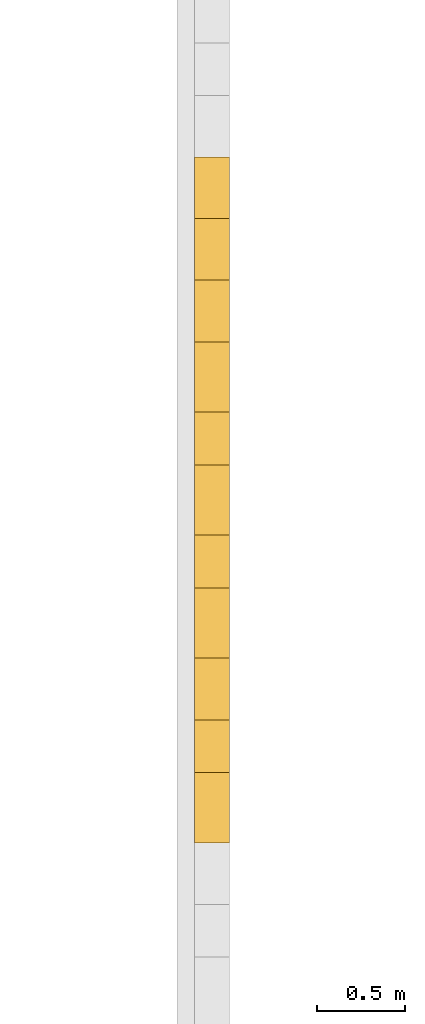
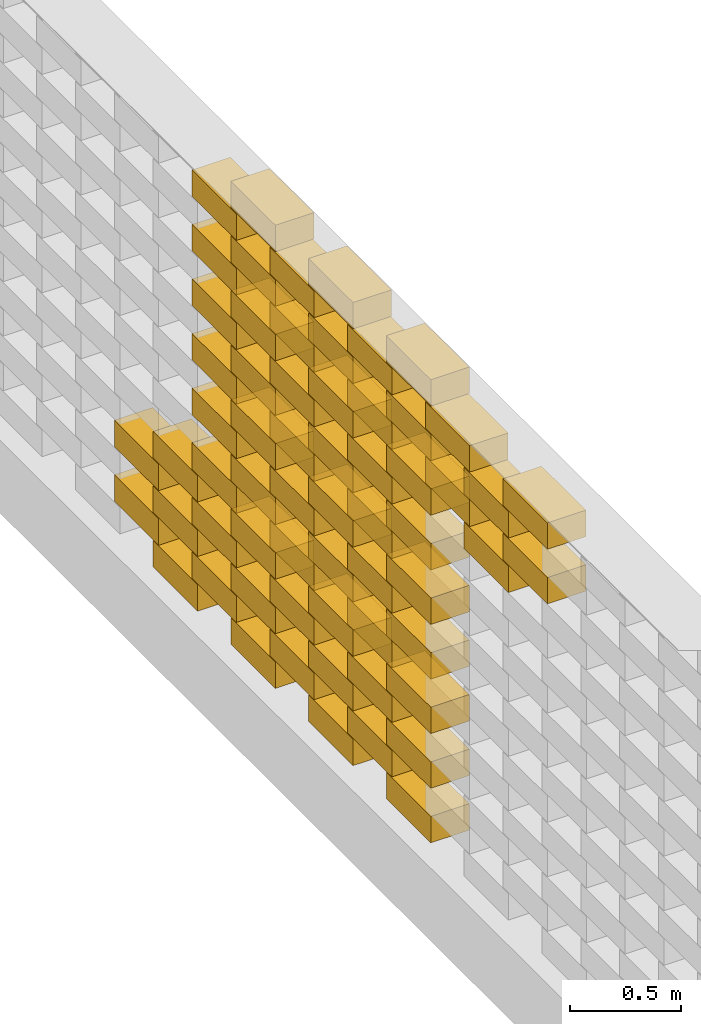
# One storey, part 40 of 62: 71 railings.
"""IFC2X3 building model written with IfcOpenShell, lengths in millimetres."""

from ifc_helpers import new_model, entity, si_unit, converted_unit, derived_unit, money_unit, direction, frame, origin_with_axes, place, context, subcontext, project, spatial, polyline, outline, extrude, material, type_object, element, save


model = new_model("IFC2X3")

# Units and contexts
model_context = context("Model", 3, precision=0.01, world=origin_with_axes(), true_north=direction((0.0, 1.0)))
body_context = subcontext(model_context, "Body", "Model", "MODEL_VIEW")
ifc_project = project(units=[si_unit("LENGTHUNIT", "METRE", prefix="MILLI"), si_unit("AREAUNIT", "SQUARE_METRE"), si_unit("VOLUMEUNIT", "CUBIC_METRE"), converted_unit("PLANEANGLEUNIT", "DEGREE", entity("IfcPlaneAngleMeasure", 0.0174532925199), si_unit("PLANEANGLEUNIT", "RADIAN"), dimensions=[0, 0, 0, 0, 0, 0, 0]), si_unit("SOLIDANGLEUNIT", "STERADIAN"), money_unit("EUR"), converted_unit("TIMEUNIT", "Year", entity("IfcTimeMeasure", 31556926.0), si_unit("TIMEUNIT", "SECOND"), dimensions=[0, 0, 1, 0, 0, 0, 0]), si_unit("MASSUNIT", "GRAM", prefix="KILO"), si_unit("THERMODYNAMICTEMPERATUREUNIT", "DEGREE_CELSIUS"), si_unit("LUMINOUSINTENSITYUNIT", "LUMEN"), si_unit("ENERGYUNIT", "JOULE", prefix="MEGA"), derived_unit("THERMALCONDUCTANCEUNIT", [(si_unit("POWERUNIT", "WATT"), 1), (si_unit("LENGTHUNIT", "METRE"), -1), (si_unit("THERMODYNAMICTEMPERATUREUNIT", "KELVIN"), -1)]), derived_unit("SPECIFICHEATCAPACITYUNIT", [(si_unit("ENERGYUNIT", "JOULE"), 1), (si_unit("MASSUNIT", "GRAM", prefix="KILO"), -1), (si_unit("THERMODYNAMICTEMPERATUREUNIT", "KELVIN"), -1)]), derived_unit("MASSDENSITYUNIT", [(si_unit("MASSUNIT", "GRAM", prefix="KILO"), 1), (si_unit("VOLUMEUNIT", "CUBIC_METRE"), -1)])], contexts=[model_context])

# Site, building, storey
site_placement = place(None, origin_with_axes())
site = spatial("IfcSite", under=ifc_project, at=site_placement, Name="KIRDE 14, ELVA", CompositionType="ELEMENT")
building_placement = place(site_placement, origin_with_axes())
building = spatial("IfcBuilding", under=site, at=building_placement, Name="PPA ja Päästeameti ühishoone", CompositionType="ELEMENT")
storey_placement = place(building_placement, origin_with_axes())
storey = spatial("IfcBuildingStorey", under=building, at=storey_placement, Name="Esimene korrus", CompositionType="ELEMENT", Elevation=0.0)

# Railings
ifc_material = material(Name="Air Space")
railing_type = type_object("IfcRailingType", Name="Air Space 200", PredefinedType="NOTDEFINED")
railing_1_placement = place(storey_placement, frame((620.000152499, -17423.8398409, 2800.0), z_axis=(0.0, 0.0, 1.0), x_axis=(7.27595762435e-10, -1.0, 0.0)))
element("IfcRailing", 1, at=railing_1_placement, inside=storey, type_object=railing_type, material=ifc_material, Name="plokk", PredefinedType="NOTDEFINED", context=body_context, shape_type="SweptSolid", body=[
    extrude(outline(polyline([(0.0, 0.0), (399.999999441, 0.0), (399.999999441, 200.0), (0.0, 200.0), (0.0, 0.0)])), origin_with_axes(), (0.0, 0.0, 1.0), 145.0),
])
for number, where, z_axis, x_axis in (
    (2, (620.000153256, -18123.8398401, 2800.0), (0.0, 0.0, 1.0), (-1.01863406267e-09, -1.0, 0.0)),
    (3, (620.000152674, -16723.8398388, 2800.0), (0.0, 0.0, 1.0), (5.82076607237e-10, -1.0, 0.0)),
):
    element("IfcRailing", number, at=place(storey_placement, frame(where, z_axis=z_axis, x_axis=x_axis)), inside=storey, type_object=railing_type, material=ifc_material, Name="plokk", PredefinedType="NOTDEFINED", context=body_context, shape_type="SweptSolid", body=[
        extrude(outline(polyline([(0.0, 0.0), (400.000001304, 0.0), (400.000001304, 200.0), (0.0, 200.0), (0.0, 0.0)])), origin_with_axes(), (0.0, 0.0, 1.0), 145.0),
    ])
railing_2_placement = place(storey_placement, frame((620.000152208, -16023.8398405, 400.0), z_axis=(0.0, 0.0, 1.0), x_axis=(0.0, -1.0, 0.0)))
element("IfcRailing", 4, at=railing_2_placement, inside=storey, type_object=railing_type, material=ifc_material, Name="plokk", PredefinedType="NOTDEFINED", context=body_context, shape_type="SweptSolid", body=[
    extrude(outline(polyline([(0.0, 0.0), (399.999999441, 0.0), (399.999999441, 200.0), (0.0, 200.0), (0.0, 0.0)])), origin_with_axes(), (0.0, 0.0, 1.0), 145.0),
])
railing_3_placement = place(storey_placement, frame((620.000152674, -16723.8398388, 400.0), z_axis=(0.0, 0.0, 1.0), x_axis=(5.82076607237e-10, -1.0, 0.0)))
element("IfcRailing", 5, at=railing_3_placement, inside=storey, type_object=railing_type, material=ifc_material, Name="plokk", PredefinedType="NOTDEFINED", context=body_context, shape_type="SweptSolid", body=[
    extrude(outline(polyline([(0.0, 0.0), (400.000001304, 0.0), (400.000001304, 200.0), (0.0, 200.0), (0.0, 0.0)])), origin_with_axes(), (0.0, 0.0, 1.0), 145.0),
])
railing_4_placement = place(storey_placement, frame((620.000152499, -17423.8398409, 400.0), z_axis=(0.0, 0.0, 1.0), x_axis=(7.27595762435e-10, -1.0, 0.0)))
element("IfcRailing", 6, at=railing_4_placement, inside=storey, type_object=railing_type, material=ifc_material, Name="plokk", PredefinedType="NOTDEFINED", context=body_context, shape_type="SweptSolid", body=[
    extrude(outline(polyline([(0.0, 0.0), (399.999999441, 0.0), (399.999999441, 200.0), (0.0, 200.0), (0.0, 0.0)])), origin_with_axes(), (0.0, 0.0, 1.0), 145.0),
])
railing_5_placement = place(storey_placement, frame((620.000153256, -18123.8398401, 400.0), z_axis=(0.0, 0.0, 1.0), x_axis=(-1.01863406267e-09, -1.0, 0.0)))
element("IfcRailing", 7, at=railing_5_placement, inside=storey, type_object=railing_type, material=ifc_material, Name="plokk", PredefinedType="NOTDEFINED", context=body_context, shape_type="SweptSolid", body=[
    extrude(outline(polyline([(0.0, 0.0), (400.000001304, 0.0), (400.000001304, 200.0), (0.0, 200.0), (0.0, 0.0)])), origin_with_axes(), (0.0, 0.0, 1.0), 145.0),
])
railing_6_placement = place(storey_placement, frame((620.000152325, -15673.8398409, 550.0), z_axis=(0.0, 0.0, 1.0), x_axis=(-8.73114914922e-10, -1.0, 0.0)))
element("IfcRailing", 8, at=railing_6_placement, inside=storey, type_object=railing_type, material=ifc_material, Name="plokk", PredefinedType="NOTDEFINED", context=body_context, shape_type="SweptSolid", body=[
    extrude(outline(polyline([(0.0, 0.0), (399.999999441, 0.0), (399.999999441, 200.0), (0.0, 200.0), (0.0, 0.0)])), origin_with_axes(), (0.0, 0.0, 1.0), 145.0),
])
railing_7_placement = place(storey_placement, frame((620.000152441, -16373.8398401, 550.0), z_axis=(0.0, 0.0, 1.0), x_axis=(1.30967236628e-09, -1.0, 0.0)))
element("IfcRailing", 9, at=railing_7_placement, inside=storey, type_object=railing_type, material=ifc_material, Name="plokk", PredefinedType="NOTDEFINED", context=body_context, shape_type="SweptSolid", body=[
    extrude(outline(polyline([(0.0, 0.0), (400.000001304, 0.0), (400.000001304, 200.0), (0.0, 200.0), (0.0, 0.0)])), origin_with_axes(), (0.0, 0.0, 1.0), 145.0),
])
railing_8_placement = place(storey_placement, frame((620.000152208, -17073.8398403, 550.0), z_axis=(0.0, 0.0, 1.0), x_axis=(8.73114914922e-10, -1.0, 0.0)))
element("IfcRailing", 10, at=railing_8_placement, inside=storey, type_object=railing_type, material=ifc_material, Name="plokk", PredefinedType="NOTDEFINED", context=body_context, shape_type="SweptSolid", body=[
    extrude(outline(polyline([(0.0, 0.0), (399.999999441, 0.0), (399.999999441, 200.0), (0.0, 200.0), (0.0, 0.0)])), origin_with_axes(), (0.0, 0.0, 1.0), 145.0),
])
railing_9_placement = place(storey_placement, frame((620.000153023, -17773.8398405, 550.0), z_axis=(0.0, 0.0, 1.0), x_axis=(0.0, -1.0, 0.0)))
element("IfcRailing", 11, at=railing_9_placement, inside=storey, type_object=railing_type, material=ifc_material, Name="plokk", PredefinedType="NOTDEFINED", context=body_context, shape_type="SweptSolid", body=[
    extrude(outline(polyline([(0.0, 0.0), (400.000000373, 0.0), (400.000000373, 200.0), (0.0, 200.0), (0.0, 0.0)])), origin_with_axes(), (0.0, 0.0, 1.0), 145.0),
])
railing_10_placement = place(storey_placement, frame((620.000152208, -16023.8398405, 700.0), z_axis=(0.0, 0.0, 1.0), x_axis=(0.0, -1.0, 0.0)))
element("IfcRailing", 12, at=railing_10_placement, inside=storey, type_object=railing_type, material=ifc_material, Name="plokk", PredefinedType="NOTDEFINED", context=body_context, shape_type="SweptSolid", body=[
    extrude(outline(polyline([(0.0, 0.0), (399.999999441, 0.0), (399.999999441, 200.0), (0.0, 200.0), (0.0, 0.0)])), origin_with_axes(), (0.0, 0.0, 1.0), 145.0),
])
railing_11_placement = place(storey_placement, frame((620.000152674, -16723.8398388, 700.0), z_axis=(0.0, 0.0, 1.0), x_axis=(5.82076607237e-10, -1.0, 0.0)))
element("IfcRailing", 13, at=railing_11_placement, inside=storey, type_object=railing_type, material=ifc_material, Name="plokk", PredefinedType="NOTDEFINED", context=body_context, shape_type="SweptSolid", body=[
    extrude(outline(polyline([(0.0, 0.0), (400.000001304, 0.0), (400.000001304, 200.0), (0.0, 200.0), (0.0, 0.0)])), origin_with_axes(), (0.0, 0.0, 1.0), 145.0),
])
railing_12_placement = place(storey_placement, frame((620.000152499, -17423.8398409, 700.0), z_axis=(0.0, 0.0, 1.0), x_axis=(7.27595762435e-10, -1.0, 0.0)))
element("IfcRailing", 14, at=railing_12_placement, inside=storey, type_object=railing_type, material=ifc_material, Name="plokk", PredefinedType="NOTDEFINED", context=body_context, shape_type="SweptSolid", body=[
    extrude(outline(polyline([(0.0, 0.0), (399.999999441, 0.0), (399.999999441, 200.0), (0.0, 200.0), (0.0, 0.0)])), origin_with_axes(), (0.0, 0.0, 1.0), 145.0),
])
railing_13_placement = place(storey_placement, frame((620.000153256, -18123.8398401, 700.0), z_axis=(0.0, 0.0, 1.0), x_axis=(-1.01863406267e-09, -1.0, 0.0)))
element("IfcRailing", 15, at=railing_13_placement, inside=storey, type_object=railing_type, material=ifc_material, Name="plokk", PredefinedType="NOTDEFINED", context=body_context, shape_type="SweptSolid", body=[
    extrude(outline(polyline([(0.0, 0.0), (400.000001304, 0.0), (400.000001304, 200.0), (0.0, 200.0), (0.0, 0.0)])), origin_with_axes(), (0.0, 0.0, 1.0), 145.0),
])
railing_14_placement = place(storey_placement, frame((620.000152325, -15673.8398409, 850.0), z_axis=(0.0, 0.0, 1.0), x_axis=(-8.73114914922e-10, -1.0, 0.0)))
element("IfcRailing", 16, at=railing_14_placement, inside=storey, type_object=railing_type, material=ifc_material, Name="plokk", PredefinedType="NOTDEFINED", context=body_context, shape_type="SweptSolid", body=[
    extrude(outline(polyline([(0.0, 0.0), (399.999999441, 0.0), (399.999999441, 200.0), (0.0, 200.0), (0.0, 0.0)])), origin_with_axes(), (0.0, 0.0, 1.0), 145.0),
])
railing_15_placement = place(storey_placement, frame((620.000152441, -16373.8398401, 850.0), z_axis=(0.0, 0.0, 1.0), x_axis=(1.30967236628e-09, -1.0, 0.0)))
element("IfcRailing", 17, at=railing_15_placement, inside=storey, type_object=railing_type, material=ifc_material, Name="plokk", PredefinedType="NOTDEFINED", context=body_context, shape_type="SweptSolid", body=[
    extrude(outline(polyline([(0.0, 0.0), (400.000001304, 0.0), (400.000001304, 200.0), (0.0, 200.0), (0.0, 0.0)])), origin_with_axes(), (0.0, 0.0, 1.0), 145.0),
])
railing_16_placement = place(storey_placement, frame((620.000152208, -17073.8398403, 850.0), z_axis=(0.0, 0.0, 1.0), x_axis=(8.73114914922e-10, -1.0, 0.0)))
element("IfcRailing", 18, at=railing_16_placement, inside=storey, type_object=railing_type, material=ifc_material, Name="plokk", PredefinedType="NOTDEFINED", context=body_context, shape_type="SweptSolid", body=[
    extrude(outline(polyline([(0.0, 0.0), (399.999999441, 0.0), (399.999999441, 200.0), (0.0, 200.0), (0.0, 0.0)])), origin_with_axes(), (0.0, 0.0, 1.0), 145.0),
])
railing_17_placement = place(storey_placement, frame((620.000153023, -17773.8398405, 850.0), z_axis=(0.0, 0.0, 1.0), x_axis=(0.0, -1.0, 0.0)))
element("IfcRailing", 19, at=railing_17_placement, inside=storey, type_object=railing_type, material=ifc_material, Name="plokk", PredefinedType="NOTDEFINED", context=body_context, shape_type="SweptSolid", body=[
    extrude(outline(polyline([(0.0, 0.0), (400.000000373, 0.0), (400.000000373, 200.0), (0.0, 200.0), (0.0, 0.0)])), origin_with_axes(), (0.0, 0.0, 1.0), 145.0),
])
railing_18_placement = place(storey_placement, frame((620.000152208, -16023.8398405, 1000.0), z_axis=(0.0, 0.0, 1.0), x_axis=(0.0, -1.0, 0.0)))
element("IfcRailing", 20, at=railing_18_placement, inside=storey, type_object=railing_type, material=ifc_material, Name="plokk", PredefinedType="NOTDEFINED", context=body_context, shape_type="SweptSolid", body=[
    extrude(outline(polyline([(0.0, 0.0), (399.999999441, 0.0), (399.999999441, 200.0), (0.0, 200.0), (0.0, 0.0)])), origin_with_axes(), (0.0, 0.0, 1.0), 145.0),
])
railing_19_placement = place(storey_placement, frame((620.000152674, -16723.8398388, 1000.0), z_axis=(0.0, 0.0, 1.0), x_axis=(5.82076607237e-10, -1.0, 0.0)))
element("IfcRailing", 21, at=railing_19_placement, inside=storey, type_object=railing_type, material=ifc_material, Name="plokk", PredefinedType="NOTDEFINED", context=body_context, shape_type="SweptSolid", body=[
    extrude(outline(polyline([(0.0, 0.0), (400.000001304, 0.0), (400.000001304, 200.0), (0.0, 200.0), (0.0, 0.0)])), origin_with_axes(), (0.0, 0.0, 1.0), 145.0),
])
railing_20_placement = place(storey_placement, frame((620.000152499, -17423.8398409, 1000.0), z_axis=(0.0, 0.0, 1.0), x_axis=(7.27595762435e-10, -1.0, 0.0)))
element("IfcRailing", 22, at=railing_20_placement, inside=storey, type_object=railing_type, material=ifc_material, Name="plokk", PredefinedType="NOTDEFINED", context=body_context, shape_type="SweptSolid", body=[
    extrude(outline(polyline([(0.0, 0.0), (399.999999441, 0.0), (399.999999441, 200.0), (0.0, 200.0), (0.0, 0.0)])), origin_with_axes(), (0.0, 0.0, 1.0), 145.0),
])
for number, where, z_axis, x_axis in (
    (23, (620.000153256, -18123.8398401, 1000.0), (0.0, 0.0, 1.0), (-1.01863406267e-09, -1.0, 0.0)),
    (24, (620.000152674, -16723.8398388, 1000.0), (0.0, 0.0, 1.0), (5.82076607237e-10, -1.0, 0.0)),
):
    element("IfcRailing", number, at=place(storey_placement, frame(where, z_axis=z_axis, x_axis=x_axis)), inside=storey, type_object=railing_type, material=ifc_material, Name="plokk", PredefinedType="NOTDEFINED", context=body_context, shape_type="SweptSolid", body=[
        extrude(outline(polyline([(0.0, 0.0), (400.000001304, 0.0), (400.000001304, 200.0), (0.0, 200.0), (0.0, 0.0)])), origin_with_axes(), (0.0, 0.0, 1.0), 145.0),
    ])
railing_21_placement = place(storey_placement, frame((620.000152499, -17423.8398409, 1000.0), z_axis=(0.0, 0.0, 1.0), x_axis=(7.27595762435e-10, -1.0, 0.0)))
element("IfcRailing", 25, at=railing_21_placement, inside=storey, type_object=railing_type, material=ifc_material, Name="plokk", PredefinedType="NOTDEFINED", context=body_context, shape_type="SweptSolid", body=[
    extrude(outline(polyline([(0.0, 0.0), (399.999999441, 0.0), (399.999999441, 200.0), (0.0, 200.0), (0.0, 0.0)])), origin_with_axes(), (0.0, 0.0, 1.0), 145.0),
])
for number, where, z_axis, x_axis in (
    (26, (620.000153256, -18123.8398401, 1000.0), (0.0, 0.0, 1.0), (-1.01863406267e-09, -1.0, 0.0)),
    (27, (620.000152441, -16373.8398401, 1150.0), (0.0, 0.0, 1.0), (1.30967236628e-09, -1.0, 0.0)),
):
    element("IfcRailing", number, at=place(storey_placement, frame(where, z_axis=z_axis, x_axis=x_axis)), inside=storey, type_object=railing_type, material=ifc_material, Name="plokk", PredefinedType="NOTDEFINED", context=body_context, shape_type="SweptSolid", body=[
        extrude(outline(polyline([(0.0, 0.0), (400.000001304, 0.0), (400.000001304, 200.0), (0.0, 200.0), (0.0, 0.0)])), origin_with_axes(), (0.0, 0.0, 1.0), 145.0),
    ])
railing_22_placement = place(storey_placement, frame((620.000152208, -17073.8398403, 1150.0), z_axis=(0.0, 0.0, 1.0), x_axis=(8.73114914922e-10, -1.0, 0.0)))
element("IfcRailing", 28, at=railing_22_placement, inside=storey, type_object=railing_type, material=ifc_material, Name="plokk", PredefinedType="NOTDEFINED", context=body_context, shape_type="SweptSolid", body=[
    extrude(outline(polyline([(0.0, 0.0), (399.999999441, 0.0), (399.999999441, 200.0), (0.0, 200.0), (0.0, 0.0)])), origin_with_axes(), (0.0, 0.0, 1.0), 145.0),
])
railing_23_placement = place(storey_placement, frame((620.000153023, -17773.8398405, 1150.0), z_axis=(0.0, 0.0, 1.0), x_axis=(0.0, -1.0, 0.0)))
element("IfcRailing", 29, at=railing_23_placement, inside=storey, type_object=railing_type, material=ifc_material, Name="plokk", PredefinedType="NOTDEFINED", context=body_context, shape_type="SweptSolid", body=[
    extrude(outline(polyline([(0.0, 0.0), (400.000000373, 0.0), (400.000000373, 200.0), (0.0, 200.0), (0.0, 0.0)])), origin_with_axes(), (0.0, 0.0, 1.0), 145.0),
])
railing_24_placement = place(storey_placement, frame((620.000152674, -16723.8398388, 1300.0), z_axis=(0.0, 0.0, 1.0), x_axis=(5.82076607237e-10, -1.0, 0.0)))
element("IfcRailing", 30, at=railing_24_placement, inside=storey, type_object=railing_type, material=ifc_material, Name="plokk", PredefinedType="NOTDEFINED", context=body_context, shape_type="SweptSolid", body=[
    extrude(outline(polyline([(0.0, 0.0), (400.000001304, 0.0), (400.000001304, 200.0), (0.0, 200.0), (0.0, 0.0)])), origin_with_axes(), (0.0, 0.0, 1.0), 145.0),
])
railing_25_placement = place(storey_placement, frame((620.000152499, -17423.8398409, 1300.0), z_axis=(0.0, 0.0, 1.0), x_axis=(7.27595762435e-10, -1.0, 0.0)))
element("IfcRailing", 31, at=railing_25_placement, inside=storey, type_object=railing_type, material=ifc_material, Name="plokk", PredefinedType="NOTDEFINED", context=body_context, shape_type="SweptSolid", body=[
    extrude(outline(polyline([(0.0, 0.0), (399.999999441, 0.0), (399.999999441, 200.0), (0.0, 200.0), (0.0, 0.0)])), origin_with_axes(), (0.0, 0.0, 1.0), 145.0),
])
for number, where, z_axis, x_axis in (
    (32, (620.000153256, -18123.8398401, 1300.0), (0.0, 0.0, 1.0), (-1.01863406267e-09, -1.0, 0.0)),
    (33, (620.000152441, -16373.8398401, 1450.0), (0.0, 0.0, 1.0), (1.30967236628e-09, -1.0, 0.0)),
):
    element("IfcRailing", number, at=place(storey_placement, frame(where, z_axis=z_axis, x_axis=x_axis)), inside=storey, type_object=railing_type, material=ifc_material, Name="plokk", PredefinedType="NOTDEFINED", context=body_context, shape_type="SweptSolid", body=[
        extrude(outline(polyline([(0.0, 0.0), (400.000001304, 0.0), (400.000001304, 200.0), (0.0, 200.0), (0.0, 0.0)])), origin_with_axes(), (0.0, 0.0, 1.0), 145.0),
    ])
railing_26_placement = place(storey_placement, frame((620.000152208, -17073.8398403, 1450.0), z_axis=(0.0, 0.0, 1.0), x_axis=(8.73114914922e-10, -1.0, 0.0)))
element("IfcRailing", 34, at=railing_26_placement, inside=storey, type_object=railing_type, material=ifc_material, Name="plokk", PredefinedType="NOTDEFINED", context=body_context, shape_type="SweptSolid", body=[
    extrude(outline(polyline([(0.0, 0.0), (399.999999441, 0.0), (399.999999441, 200.0), (0.0, 200.0), (0.0, 0.0)])), origin_with_axes(), (0.0, 0.0, 1.0), 145.0),
])
railing_27_placement = place(storey_placement, frame((620.000153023, -17773.8398405, 1450.0), z_axis=(0.0, 0.0, 1.0), x_axis=(0.0, -1.0, 0.0)))
element("IfcRailing", 35, at=railing_27_placement, inside=storey, type_object=railing_type, material=ifc_material, Name="plokk", PredefinedType="NOTDEFINED", context=body_context, shape_type="SweptSolid", body=[
    extrude(outline(polyline([(0.0, 0.0), (400.000000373, 0.0), (400.000000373, 200.0), (0.0, 200.0), (0.0, 0.0)])), origin_with_axes(), (0.0, 0.0, 1.0), 145.0),
])
railing_28_placement = place(storey_placement, frame((620.000152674, -16723.8398388, 1600.0), z_axis=(0.0, 0.0, 1.0), x_axis=(5.82076607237e-10, -1.0, 0.0)))
element("IfcRailing", 36, at=railing_28_placement, inside=storey, type_object=railing_type, material=ifc_material, Name="plokk", PredefinedType="NOTDEFINED", context=body_context, shape_type="SweptSolid", body=[
    extrude(outline(polyline([(0.0, 0.0), (400.000001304, 0.0), (400.000001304, 200.0), (0.0, 200.0), (0.0, 0.0)])), origin_with_axes(), (0.0, 0.0, 1.0), 145.0),
])
railing_29_placement = place(storey_placement, frame((620.000152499, -17423.8398409, 1600.0), z_axis=(0.0, 0.0, 1.0), x_axis=(7.27595762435e-10, -1.0, 0.0)))
element("IfcRailing", 37, at=railing_29_placement, inside=storey, type_object=railing_type, material=ifc_material, Name="plokk", PredefinedType="NOTDEFINED", context=body_context, shape_type="SweptSolid", body=[
    extrude(outline(polyline([(0.0, 0.0), (399.999999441, 0.0), (399.999999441, 200.0), (0.0, 200.0), (0.0, 0.0)])), origin_with_axes(), (0.0, 0.0, 1.0), 145.0),
])
for number, where, z_axis, x_axis in (
    (38, (620.000153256, -18123.8398401, 1600.0), (0.0, 0.0, 1.0), (-1.01863406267e-09, -1.0, 0.0)),
    (39, (620.000152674, -16723.8398388, 1600.0), (0.0, 0.0, 1.0), (5.82076607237e-10, -1.0, 0.0)),
):
    element("IfcRailing", number, at=place(storey_placement, frame(where, z_axis=z_axis, x_axis=x_axis)), inside=storey, type_object=railing_type, material=ifc_material, Name="plokk", PredefinedType="NOTDEFINED", context=body_context, shape_type="SweptSolid", body=[
        extrude(outline(polyline([(0.0, 0.0), (400.000001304, 0.0), (400.000001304, 200.0), (0.0, 200.0), (0.0, 0.0)])), origin_with_axes(), (0.0, 0.0, 1.0), 145.0),
    ])
railing_30_placement = place(storey_placement, frame((620.000152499, -17423.8398409, 1600.0), z_axis=(0.0, 0.0, 1.0), x_axis=(7.27595762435e-10, -1.0, 0.0)))
element("IfcRailing", 40, at=railing_30_placement, inside=storey, type_object=railing_type, material=ifc_material, Name="plokk", PredefinedType="NOTDEFINED", context=body_context, shape_type="SweptSolid", body=[
    extrude(outline(polyline([(0.0, 0.0), (399.999999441, 0.0), (399.999999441, 200.0), (0.0, 200.0), (0.0, 0.0)])), origin_with_axes(), (0.0, 0.0, 1.0), 145.0),
])
for number, where, z_axis, x_axis in (
    (41, (620.000153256, -18123.8398401, 1600.0), (0.0, 0.0, 1.0), (-1.01863406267e-09, -1.0, 0.0)),
    (42, (620.000152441, -16373.8398401, 1750.0), (0.0, 0.0, 1.0), (1.30967236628e-09, -1.0, 0.0)),
):
    element("IfcRailing", number, at=place(storey_placement, frame(where, z_axis=z_axis, x_axis=x_axis)), inside=storey, type_object=railing_type, material=ifc_material, Name="plokk", PredefinedType="NOTDEFINED", context=body_context, shape_type="SweptSolid", body=[
        extrude(outline(polyline([(0.0, 0.0), (400.000001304, 0.0), (400.000001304, 200.0), (0.0, 200.0), (0.0, 0.0)])), origin_with_axes(), (0.0, 0.0, 1.0), 145.0),
    ])
railing_31_placement = place(storey_placement, frame((620.000152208, -17073.8398403, 1750.0), z_axis=(0.0, 0.0, 1.0), x_axis=(8.73114914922e-10, -1.0, 0.0)))
element("IfcRailing", 43, at=railing_31_placement, inside=storey, type_object=railing_type, material=ifc_material, Name="plokk", PredefinedType="NOTDEFINED", context=body_context, shape_type="SweptSolid", body=[
    extrude(outline(polyline([(0.0, 0.0), (399.999999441, 0.0), (399.999999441, 200.0), (0.0, 200.0), (0.0, 0.0)])), origin_with_axes(), (0.0, 0.0, 1.0), 145.0),
])
railing_32_placement = place(storey_placement, frame((620.000153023, -17773.8398405, 1750.0), z_axis=(0.0, 0.0, 1.0), x_axis=(0.0, -1.0, 0.0)))
element("IfcRailing", 44, at=railing_32_placement, inside=storey, type_object=railing_type, material=ifc_material, Name="plokk", PredefinedType="NOTDEFINED", context=body_context, shape_type="SweptSolid", body=[
    extrude(outline(polyline([(0.0, 0.0), (400.000000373, 0.0), (400.000000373, 200.0), (0.0, 200.0), (0.0, 0.0)])), origin_with_axes(), (0.0, 0.0, 1.0), 145.0),
])
railing_33_placement = place(storey_placement, frame((620.000152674, -16723.8398388, 1900.0), z_axis=(0.0, 0.0, 1.0), x_axis=(5.82076607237e-10, -1.0, 0.0)))
element("IfcRailing", 45, at=railing_33_placement, inside=storey, type_object=railing_type, material=ifc_material, Name="plokk", PredefinedType="NOTDEFINED", context=body_context, shape_type="SweptSolid", body=[
    extrude(outline(polyline([(0.0, 0.0), (400.000001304, 0.0), (400.000001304, 200.0), (0.0, 200.0), (0.0, 0.0)])), origin_with_axes(), (0.0, 0.0, 1.0), 145.0),
])
railing_34_placement = place(storey_placement, frame((620.000152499, -17423.8398409, 1900.0), z_axis=(0.0, 0.0, 1.0), x_axis=(7.27595762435e-10, -1.0, 0.0)))
element("IfcRailing", 46, at=railing_34_placement, inside=storey, type_object=railing_type, material=ifc_material, Name="plokk", PredefinedType="NOTDEFINED", context=body_context, shape_type="SweptSolid", body=[
    extrude(outline(polyline([(0.0, 0.0), (399.999999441, 0.0), (399.999999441, 200.0), (0.0, 200.0), (0.0, 0.0)])), origin_with_axes(), (0.0, 0.0, 1.0), 145.0),
])
for number, where, z_axis, x_axis in (
    (47, (620.000153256, -18123.8398401, 1900.0), (0.0, 0.0, 1.0), (-1.01863406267e-09, -1.0, 0.0)),
    (48, (620.000152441, -16373.8398401, 2050.0), (0.0, 0.0, 1.0), (1.30967236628e-09, -1.0, 0.0)),
):
    element("IfcRailing", number, at=place(storey_placement, frame(where, z_axis=z_axis, x_axis=x_axis)), inside=storey, type_object=railing_type, material=ifc_material, Name="plokk", PredefinedType="NOTDEFINED", context=body_context, shape_type="SweptSolid", body=[
        extrude(outline(polyline([(0.0, 0.0), (400.000001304, 0.0), (400.000001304, 200.0), (0.0, 200.0), (0.0, 0.0)])), origin_with_axes(), (0.0, 0.0, 1.0), 145.0),
    ])
railing_35_placement = place(storey_placement, frame((620.000152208, -17073.8398403, 2050.0), z_axis=(0.0, 0.0, 1.0), x_axis=(8.73114914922e-10, -1.0, 0.0)))
element("IfcRailing", 49, at=railing_35_placement, inside=storey, type_object=railing_type, material=ifc_material, Name="plokk", PredefinedType="NOTDEFINED", context=body_context, shape_type="SweptSolid", body=[
    extrude(outline(polyline([(0.0, 0.0), (399.999999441, 0.0), (399.999999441, 200.0), (0.0, 200.0), (0.0, 0.0)])), origin_with_axes(), (0.0, 0.0, 1.0), 145.0),
])
railing_36_placement = place(storey_placement, frame((620.000153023, -17773.8398405, 2050.0), z_axis=(0.0, 0.0, 1.0), x_axis=(0.0, -1.0, 0.0)))
element("IfcRailing", 50, at=railing_36_placement, inside=storey, type_object=railing_type, material=ifc_material, Name="plokk", PredefinedType="NOTDEFINED", context=body_context, shape_type="SweptSolid", body=[
    extrude(outline(polyline([(0.0, 0.0), (400.000000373, 0.0), (400.000000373, 200.0), (0.0, 200.0), (0.0, 0.0)])), origin_with_axes(), (0.0, 0.0, 1.0), 145.0),
])
railing_37_placement = place(storey_placement, frame((620.000152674, -16723.8398388, 2200.0), z_axis=(0.0, 0.0, 1.0), x_axis=(5.82076607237e-10, -1.0, 0.0)))
element("IfcRailing", 51, at=railing_37_placement, inside=storey, type_object=railing_type, material=ifc_material, Name="plokk", PredefinedType="NOTDEFINED", context=body_context, shape_type="SweptSolid", body=[
    extrude(outline(polyline([(0.0, 0.0), (400.000001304, 0.0), (400.000001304, 200.0), (0.0, 200.0), (0.0, 0.0)])), origin_with_axes(), (0.0, 0.0, 1.0), 145.0),
])
railing_38_placement = place(storey_placement, frame((620.000152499, -17423.8398409, 2200.0), z_axis=(0.0, 0.0, 1.0), x_axis=(7.27595762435e-10, -1.0, 0.0)))
element("IfcRailing", 52, at=railing_38_placement, inside=storey, type_object=railing_type, material=ifc_material, Name="plokk", PredefinedType="NOTDEFINED", context=body_context, shape_type="SweptSolid", body=[
    extrude(outline(polyline([(0.0, 0.0), (399.999999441, 0.0), (399.999999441, 200.0), (0.0, 200.0), (0.0, 0.0)])), origin_with_axes(), (0.0, 0.0, 1.0), 145.0),
])
for number, where, z_axis, x_axis in (
    (53, (620.000153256, -18123.8398401, 2200.0), (0.0, 0.0, 1.0), (-1.01863406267e-09, -1.0, 0.0)),
    (54, (620.000152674, -16723.8398388, 2200.0), (0.0, 0.0, 1.0), (5.82076607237e-10, -1.0, 0.0)),
):
    element("IfcRailing", number, at=place(storey_placement, frame(where, z_axis=z_axis, x_axis=x_axis)), inside=storey, type_object=railing_type, material=ifc_material, Name="plokk", PredefinedType="NOTDEFINED", context=body_context, shape_type="SweptSolid", body=[
        extrude(outline(polyline([(0.0, 0.0), (400.000001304, 0.0), (400.000001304, 200.0), (0.0, 200.0), (0.0, 0.0)])), origin_with_axes(), (0.0, 0.0, 1.0), 145.0),
    ])
railing_39_placement = place(storey_placement, frame((620.000152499, -17423.8398409, 2200.0), z_axis=(0.0, 0.0, 1.0), x_axis=(7.27595762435e-10, -1.0, 0.0)))
element("IfcRailing", 55, at=railing_39_placement, inside=storey, type_object=railing_type, material=ifc_material, Name="plokk", PredefinedType="NOTDEFINED", context=body_context, shape_type="SweptSolid", body=[
    extrude(outline(polyline([(0.0, 0.0), (399.999999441, 0.0), (399.999999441, 200.0), (0.0, 200.0), (0.0, 0.0)])), origin_with_axes(), (0.0, 0.0, 1.0), 145.0),
])
railing_40_placement = place(storey_placement, frame((620.000153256, -18123.8398401, 2200.0), z_axis=(0.0, 0.0, 1.0), x_axis=(-1.01863406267e-09, -1.0, 0.0)))
element("IfcRailing", 56, at=railing_40_placement, inside=storey, type_object=railing_type, material=ifc_material, Name="plokk", PredefinedType="NOTDEFINED", context=body_context, shape_type="SweptSolid", body=[
    extrude(outline(polyline([(0.0, 0.0), (400.000001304, 0.0), (400.000001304, 200.0), (0.0, 200.0), (0.0, 0.0)])), origin_with_axes(), (0.0, 0.0, 1.0), 145.0),
])
railing_41_placement = place(storey_placement, frame((620.000152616, -18823.8398403, 2200.0), z_axis=(0.0, 0.0, 1.0), x_axis=(-4.36557456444e-10, -1.0, 0.0)))
element("IfcRailing", 57, at=railing_41_placement, inside=storey, type_object=railing_type, material=ifc_material, Name="plokk", PredefinedType="NOTDEFINED", context=body_context, shape_type="SweptSolid", body=[
    extrude(outline(polyline([(0.0, 0.0), (400.000000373, 0.0), (400.000000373, 200.0), (0.0, 200.0), (0.0, 0.0)])), origin_with_axes(), (0.0, 0.0, 1.0), 145.0),
])
railing_42_placement = place(storey_placement, frame((620.000152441, -16373.8398401, 2350.0), z_axis=(0.0, 0.0, 1.0), x_axis=(1.30967236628e-09, -1.0, 0.0)))
element("IfcRailing", 58, at=railing_42_placement, inside=storey, type_object=railing_type, material=ifc_material, Name="plokk", PredefinedType="NOTDEFINED", context=body_context, shape_type="SweptSolid", body=[
    extrude(outline(polyline([(0.0, 0.0), (400.000001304, 0.0), (400.000001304, 200.0), (0.0, 200.0), (0.0, 0.0)])), origin_with_axes(), (0.0, 0.0, 1.0), 145.0),
])
railing_43_placement = place(storey_placement, frame((620.000152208, -17073.8398403, 2350.0), z_axis=(0.0, 0.0, 1.0), x_axis=(8.73114914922e-10, -1.0, 0.0)))
element("IfcRailing", 59, at=railing_43_placement, inside=storey, type_object=railing_type, material=ifc_material, Name="plokk", PredefinedType="NOTDEFINED", context=body_context, shape_type="SweptSolid", body=[
    extrude(outline(polyline([(0.0, 0.0), (399.999999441, 0.0), (399.999999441, 200.0), (0.0, 200.0), (0.0, 0.0)])), origin_with_axes(), (0.0, 0.0, 1.0), 145.0),
])
for number, where, z_axis, x_axis in (
    (60, (620.000153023, -17773.8398405, 2350.0), (0.0, 0.0, 1.0), (0.0, -1.0, 0.0)),
    (61, (620.00015279, -18473.8398398, 2350.0), (0.0, 0.0, 1.0), (8.73114912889e-10, -1.0, 0.0)),
):
    element("IfcRailing", number, at=place(storey_placement, frame(where, z_axis=z_axis, x_axis=x_axis)), inside=storey, type_object=railing_type, material=ifc_material, Name="plokk", PredefinedType="NOTDEFINED", context=body_context, shape_type="SweptSolid", body=[
        extrude(outline(polyline([(0.0, 0.0), (400.000000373, 0.0), (400.000000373, 200.0), (0.0, 200.0), (0.0, 0.0)])), origin_with_axes(), (0.0, 0.0, 1.0), 145.0),
    ])
railing_44_placement = place(storey_placement, frame((620.000153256, -19173.8398399, 2350.0), z_axis=(0.0, 0.0, 1.0), x_axis=(-2.91038304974e-10, -1.0, 0.0)))
element("IfcRailing", 62, at=railing_44_placement, inside=storey, type_object=railing_type, material=ifc_material, Name="plokk", PredefinedType="NOTDEFINED", context=body_context, shape_type="SweptSolid", body=[
    extrude(outline(polyline([(0.0, 0.0), (399.999999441, 0.0), (399.999999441, 200.0), (0.0, 200.0), (0.0, 0.0)])), origin_with_axes(), (0.0, 0.0, 1.0), 145.0),
])
railing_45_placement = place(storey_placement, frame((620.000152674, -16723.8398388, 2500.0), z_axis=(0.0, 0.0, 1.0), x_axis=(5.82076607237e-10, -1.0, 0.0)))
element("IfcRailing", 63, at=railing_45_placement, inside=storey, type_object=railing_type, material=ifc_material, Name="plokk", PredefinedType="NOTDEFINED", context=body_context, shape_type="SweptSolid", body=[
    extrude(outline(polyline([(0.0, 0.0), (400.000001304, 0.0), (400.000001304, 200.0), (0.0, 200.0), (0.0, 0.0)])), origin_with_axes(), (0.0, 0.0, 1.0), 145.0),
])
railing_46_placement = place(storey_placement, frame((620.000152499, -17423.8398409, 2500.0), z_axis=(0.0, 0.0, 1.0), x_axis=(7.27595762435e-10, -1.0, 0.0)))
element("IfcRailing", 64, at=railing_46_placement, inside=storey, type_object=railing_type, material=ifc_material, Name="plokk", PredefinedType="NOTDEFINED", context=body_context, shape_type="SweptSolid", body=[
    extrude(outline(polyline([(0.0, 0.0), (399.999999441, 0.0), (399.999999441, 200.0), (0.0, 200.0), (0.0, 0.0)])), origin_with_axes(), (0.0, 0.0, 1.0), 145.0),
])
railing_47_placement = place(storey_placement, frame((620.000153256, -18123.8398401, 2500.0), z_axis=(0.0, 0.0, 1.0), x_axis=(-1.01863406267e-09, -1.0, 0.0)))
element("IfcRailing", 65, at=railing_47_placement, inside=storey, type_object=railing_type, material=ifc_material, Name="plokk", PredefinedType="NOTDEFINED", context=body_context, shape_type="SweptSolid", body=[
    extrude(outline(polyline([(0.0, 0.0), (400.000001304, 0.0), (400.000001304, 200.0), (0.0, 200.0), (0.0, 0.0)])), origin_with_axes(), (0.0, 0.0, 1.0), 145.0),
])
railing_48_placement = place(storey_placement, frame((620.000152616, -18823.8398403, 2500.0), z_axis=(0.0, 0.0, 1.0), x_axis=(-4.36557456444e-10, -1.0, 0.0)))
element("IfcRailing", 66, at=railing_48_placement, inside=storey, type_object=railing_type, material=ifc_material, Name="plokk", PredefinedType="NOTDEFINED", context=body_context, shape_type="SweptSolid", body=[
    extrude(outline(polyline([(0.0, 0.0), (400.000000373, 0.0), (400.000000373, 200.0), (0.0, 200.0), (0.0, 0.0)])), origin_with_axes(), (0.0, 0.0, 1.0), 145.0),
])
railing_49_placement = place(storey_placement, frame((620.000152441, -16373.8398401, 2650.0), z_axis=(0.0, 0.0, 1.0), x_axis=(1.30967236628e-09, -1.0, 0.0)))
element("IfcRailing", 67, at=railing_49_placement, inside=storey, type_object=railing_type, material=ifc_material, Name="plokk", PredefinedType="NOTDEFINED", context=body_context, shape_type="SweptSolid", body=[
    extrude(outline(polyline([(0.0, 0.0), (400.000001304, 0.0), (400.000001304, 200.0), (0.0, 200.0), (0.0, 0.0)])), origin_with_axes(), (0.0, 0.0, 1.0), 145.0),
])
railing_50_placement = place(storey_placement, frame((620.000152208, -17073.8398403, 2650.0), z_axis=(0.0, 0.0, 1.0), x_axis=(8.73114914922e-10, -1.0, 0.0)))
element("IfcRailing", 68, at=railing_50_placement, inside=storey, type_object=railing_type, material=ifc_material, Name="plokk", PredefinedType="NOTDEFINED", context=body_context, shape_type="SweptSolid", body=[
    extrude(outline(polyline([(0.0, 0.0), (399.999999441, 0.0), (399.999999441, 200.0), (0.0, 200.0), (0.0, 0.0)])), origin_with_axes(), (0.0, 0.0, 1.0), 145.0),
])
for number, where, z_axis, x_axis in (
    (69, (620.000153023, -17773.8398405, 2650.0), (0.0, 0.0, 1.0), (0.0, -1.0, 0.0)),
    (70, (620.00015279, -18473.8398398, 2650.0), (0.0, 0.0, 1.0), (8.73114912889e-10, -1.0, 0.0)),
):
    element("IfcRailing", number, at=place(storey_placement, frame(where, z_axis=z_axis, x_axis=x_axis)), inside=storey, type_object=railing_type, material=ifc_material, Name="plokk", PredefinedType="NOTDEFINED", context=body_context, shape_type="SweptSolid", body=[
        extrude(outline(polyline([(0.0, 0.0), (400.000000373, 0.0), (400.000000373, 200.0), (0.0, 200.0), (0.0, 0.0)])), origin_with_axes(), (0.0, 0.0, 1.0), 145.0),
    ])
railing_51_placement = place(storey_placement, frame((620.000153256, -19173.8398399, 2650.0), z_axis=(0.0, 0.0, 1.0), x_axis=(-2.91038304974e-10, -1.0, 0.0)))
element("IfcRailing", 71, at=railing_51_placement, inside=storey, type_object=railing_type, material=ifc_material, Name="plokk", PredefinedType="NOTDEFINED", context=body_context, shape_type="SweptSolid", body=[
    extrude(outline(polyline([(0.0, 0.0), (399.999999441, 0.0), (399.999999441, 200.0), (0.0, 200.0), (0.0, 0.0)])), origin_with_axes(), (0.0, 0.0, 1.0), 145.0),
])

save(model, "model.ifc")
